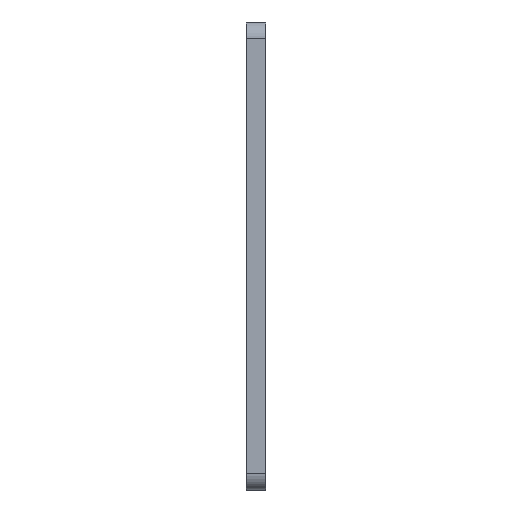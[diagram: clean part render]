
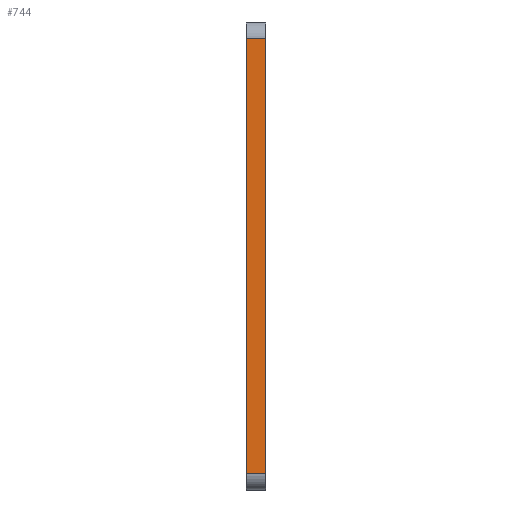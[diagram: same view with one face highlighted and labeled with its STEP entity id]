
A CAD part, left-side view. The second image highlights one B-rep face of the part: STEP entity #744.
In plain terms, the highlighted planar face has unit normal (-1, 0, 0).
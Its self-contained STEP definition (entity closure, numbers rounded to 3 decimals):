
#3 = AXIS2_PLACEMENT_3D ( 'NONE', #138, #757, #344 ) ;
#8 = CARTESIAN_POINT ( 'NONE',  ( -48.246, 4., -19.146 ) ) ;
#14 = EDGE_CURVE ( 'NONE', #97, #584, #473, .T. ) ;
#22 = VECTOR ( 'NONE', #70, 1000. ) ;
#30 = ORIENTED_EDGE ( 'NONE', *, *, #810, .F. ) ;
#39 = LINE ( 'NONE', #8, #887 ) ;
#70 = DIRECTION ( 'NONE',  ( 0., 0., -1. ) ) ;
#97 = VERTEX_POINT ( 'NONE', #700 ) ;
#100 = ORIENTED_EDGE ( 'NONE', *, *, #14, .T. ) ;
#133 = VECTOR ( 'NONE', #517, 1000. ) ;
#138 = CARTESIAN_POINT ( 'NONE',  ( -48.246, 4., 70.122 ) ) ;
#159 = VERTEX_POINT ( 'NONE', #304 ) ;
#198 = LINE ( 'NONE', #201, #22 ) ;
#201 = CARTESIAN_POINT ( 'NONE',  ( -48.246, 0., 70.122 ) ) ;
#304 = CARTESIAN_POINT ( 'NONE',  ( -48.246, 0., -19.146 ) ) ;
#315 = EDGE_LOOP ( 'NONE', ( #479, #30, #100, #883 ) ) ;
#344 = DIRECTION ( 'NONE',  ( 0., 0., 1. ) ) ;
#356 = FACE_OUTER_BOUND ( 'NONE', #315, .T. ) ;
#443 = CARTESIAN_POINT ( 'NONE',  ( -48.246, 4., 70.122 ) ) ;
#473 = LINE ( 'NONE', #736, #850 ) ;
#479 = ORIENTED_EDGE ( 'NONE', *, *, #720, .F. ) ;
#517 = DIRECTION ( 'NONE',  ( 0., -1., 0. ) ) ;
#546 = PLANE ( 'NONE',  #3 ) ;
#584 = VERTEX_POINT ( 'NONE', #624 ) ;
#616 = DIRECTION ( 'NONE',  ( 0., -1., 0. ) ) ;
#624 = CARTESIAN_POINT ( 'NONE',  ( -48.246, 4., -19.146 ) ) ;
#679 = LINE ( 'NONE', #443, #133 ) ;
#700 = CARTESIAN_POINT ( 'NONE',  ( -48.246, 4., 70.122 ) ) ;
#714 = VERTEX_POINT ( 'NONE', #820 ) ;
#720 = EDGE_CURVE ( 'NONE', #714, #159, #198, .T. ) ;
#736 = CARTESIAN_POINT ( 'NONE',  ( -48.246, 4., 70.122 ) ) ;
#744 = ADVANCED_FACE ( 'NONE', ( #356 ), #546, .T. ) ;
#757 = DIRECTION ( 'NONE',  ( -1., 0., 0. ) ) ;
#759 = EDGE_CURVE ( 'NONE', #584, #159, #39, .T. ) ;
#810 = EDGE_CURVE ( 'NONE', #97, #714, #679, .T. ) ;
#820 = CARTESIAN_POINT ( 'NONE',  ( -48.246, 0., 70.122 ) ) ;
#850 = VECTOR ( 'NONE', #877, 1000. ) ;
#877 = DIRECTION ( 'NONE',  ( 0., 0., -1. ) ) ;
#883 = ORIENTED_EDGE ( 'NONE', *, *, #759, .T. ) ;
#887 = VECTOR ( 'NONE', #616, 1000. ) ;
